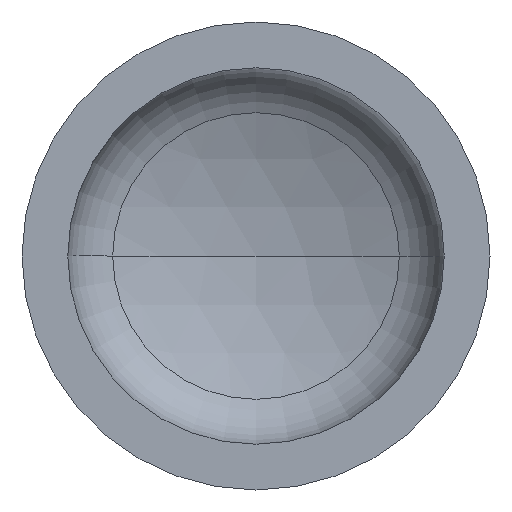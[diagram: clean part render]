
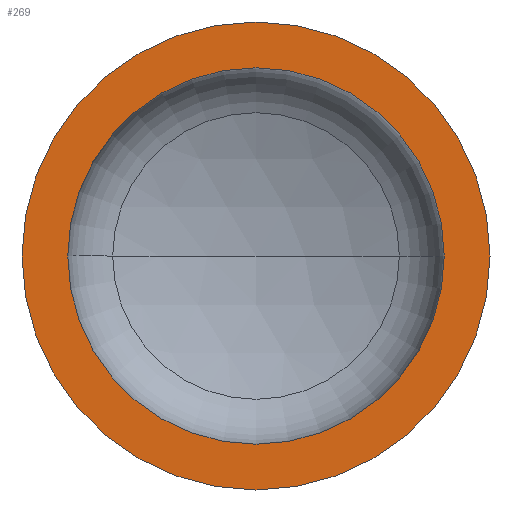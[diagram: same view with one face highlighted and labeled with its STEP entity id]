
A CAD part, front view. The second image highlights one B-rep face of the part: STEP entity #269.
In plain terms, the highlighted planar face has unit normal (0, -1, 0).
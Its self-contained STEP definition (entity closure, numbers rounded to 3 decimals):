
#1 = AXIS2_PLACEMENT_3D ( 'NONE', #183, #356, #129 ) ;
#5 = ORIENTED_EDGE ( 'NONE', *, *, #120, .F. ) ;
#13 = EDGE_LOOP ( 'NONE', ( #5, #375 ) ) ;
#16 = AXIS2_PLACEMENT_3D ( 'NONE', #373, #26, #226 ) ;
#26 = DIRECTION ( 'NONE',  ( 0., -1., 0. ) ) ;
#39 = AXIS2_PLACEMENT_3D ( 'NONE', #90, #181, #388 ) ;
#42 = VERTEX_POINT ( 'NONE', #278 ) ;
#44 = VERTEX_POINT ( 'NONE', #284 ) ;
#58 = VERTEX_POINT ( 'NONE', #287 ) ;
#60 = ORIENTED_EDGE ( 'NONE', *, *, #119, .T. ) ;
#75 = VERTEX_POINT ( 'NONE', #217 ) ;
#80 = ORIENTED_EDGE ( 'NONE', *, *, #385, .T. ) ;
#90 = CARTESIAN_POINT ( 'NONE',  ( -450., 0., 0. ) ) ;
#100 = AXIS2_PLACEMENT_3D ( 'NONE', #301, #300, #299 ) ;
#104 = AXIS2_PLACEMENT_3D ( 'NONE', #366, #372, #296 ) ;
#119 = EDGE_CURVE ( 'NONE', #44, #75, #286, .T. ) ;
#120 = EDGE_CURVE ( 'NONE', #42, #58, #354, .T. ) ;
#129 = DIRECTION ( 'NONE',  ( 1., 0., 0. ) ) ;
#177 = PLANE ( 'NONE',  #39 ) ;
#181 = DIRECTION ( 'NONE',  ( 0., 1., 0. ) ) ;
#183 = CARTESIAN_POINT ( 'NONE',  ( 0., 0., 0. ) ) ;
#188 = FACE_BOUND ( 'NONE', #13, .T. ) ;
#217 = CARTESIAN_POINT ( 'NONE',  ( 450., 0., 0. ) ) ;
#226 = DIRECTION ( 'NONE',  ( 1., 0., 0. ) ) ;
#256 = EDGE_LOOP ( 'NONE', ( #80, #60 ) ) ;
#269 = ADVANCED_FACE ( 'NONE', ( #188, #386 ), #177, .F. ) ;
#278 = CARTESIAN_POINT ( 'NONE',  ( 362., 0., 0. ) ) ;
#284 = CARTESIAN_POINT ( 'NONE',  ( -450., 0., 0. ) ) ;
#286 = CIRCLE ( 'NONE', #104, 450. ) ;
#287 = CARTESIAN_POINT ( 'NONE',  ( -362., 0., 0. ) ) ;
#296 = DIRECTION ( 'NONE',  ( 1., 0., 0. ) ) ;
#299 = DIRECTION ( 'NONE',  ( 1., 0., 0. ) ) ;
#300 = DIRECTION ( 'NONE',  ( 0., -1., 0. ) ) ;
#301 = CARTESIAN_POINT ( 'NONE',  ( 0., 0., 0. ) ) ;
#307 = CIRCLE ( 'NONE', #16, 362. ) ;
#342 = EDGE_CURVE ( 'NONE', #58, #42, #307, .T. ) ;
#354 = CIRCLE ( 'NONE', #100, 362. ) ;
#356 = DIRECTION ( 'NONE',  ( 0., -1., 0. ) ) ;
#358 = CIRCLE ( 'NONE', #1, 450. ) ;
#366 = CARTESIAN_POINT ( 'NONE',  ( 0., 0., 0. ) ) ;
#372 = DIRECTION ( 'NONE',  ( 0., -1., 0. ) ) ;
#373 = CARTESIAN_POINT ( 'NONE',  ( 0., 0., 0. ) ) ;
#375 = ORIENTED_EDGE ( 'NONE', *, *, #342, .F. ) ;
#385 = EDGE_CURVE ( 'NONE', #75, #44, #358, .T. ) ;
#386 = FACE_OUTER_BOUND ( 'NONE', #256, .T. ) ;
#388 = DIRECTION ( 'NONE',  ( -1., 0., 0. ) ) ;
